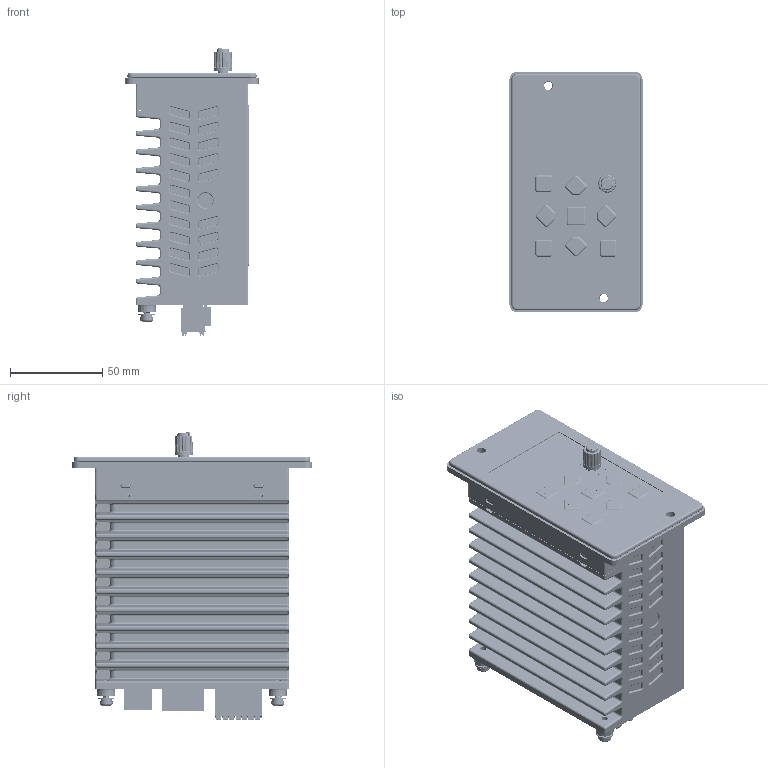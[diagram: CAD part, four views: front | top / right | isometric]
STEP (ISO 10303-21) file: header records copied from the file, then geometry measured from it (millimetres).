
FILE_DESCRIPTION (( 'STEP AP203' ), '1' );
FILE_NAME ('ZDRV.C20-400S2-DR.STEP', '2023-04-19T02:41:29', ( '' ), ( '' ), 'SwSTEP 2.0', 'SolidWorks 2019', '' );
FILE_SCHEMA (( 'CONFIG_CONTROL_DESIGN' ));
Length unit declared in the file: millimetre
Products named in the file (1): ZDRV.C20-400S2-DR
Bounding box: 72 x 130 x 155.7 mm (x, y, z)
Volume: 710291.1 mm3; surface area: 125033.8 mm2
Topology: 1 solids, 50 shells, 9122 faces, 24331 edges, 15817 vertices
Faces by surface type: plane 5382, cylinder 1751, bspline 1282, cone 338, torus 256, sphere 113
Entity records: 340288 total; most frequent: CARTESIAN_POINT 120629, ORIENTED_EDGE 48538, DIRECTION 41118, EDGE_CURVE 24269, VECTOR 16808, LINE 16808, VERTEX_POINT 15817, AXIS2_PLACEMENT_3D 12155
